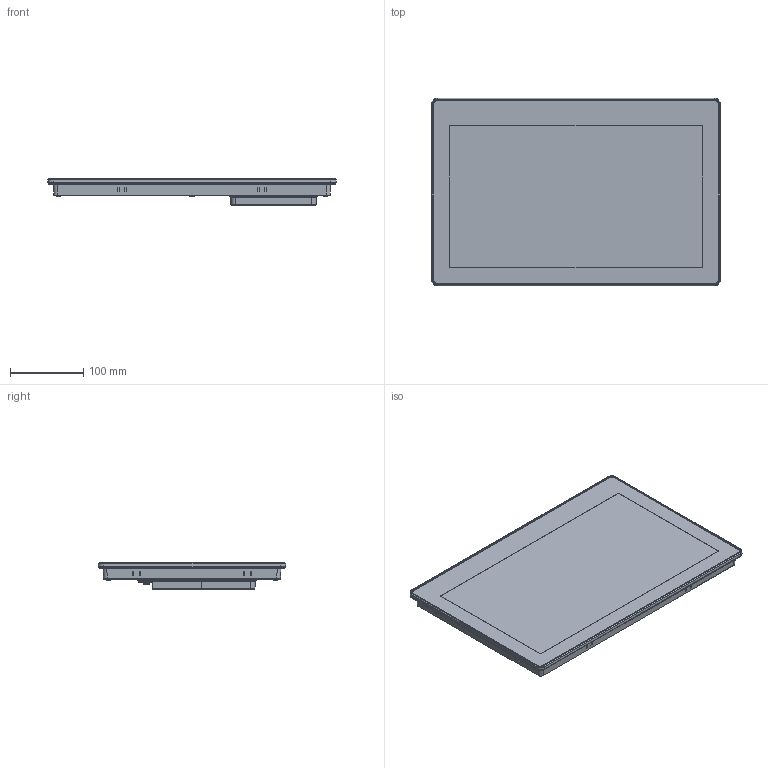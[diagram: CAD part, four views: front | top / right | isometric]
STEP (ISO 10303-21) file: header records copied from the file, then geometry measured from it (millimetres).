
FILE_DESCRIPTION((''),'2;1');
FILE_NAME('RTP156E_ASM','2026-07-07T09:47:10',('weixf_pc'),(''),'CREO PARAMETRIC BY PTC INC, 2016510','CREO PARAMETRIC BY PTC INC, 2016510','');
FILE_SCHEMA(('CONFIG_CONTROL_DESIGN'));
Products named in the file (3): 3; PM3-4_3; RTP156E_ASM
Assembly tree (11 placements, depth 2):
  RTP156E_ASM
    3
    PM3-4_3  x10
Bounding box: 394 x 256 x 35.6 mm (x, y, z)
Volume: 2190334.1 mm3; surface area: 298342.2 mm2
Topology: 11 solids, 16 shells, 2690 faces, 7063 edges, 4418 vertices
Faces by surface type: plane 1068, bspline 712, cylinder 506, torus 208, cone 100, sphere 90, extrusion 6
Entity records: 60453 total; most frequent: CARTESIAN_POINT 22420, ORIENTED_EDGE 8260, DIRECTION 7295, EDGE_CURVE 4130, VECTOR 2735, LINE 2729, VERTEX_POINT 2672, AXIS2_PLACEMENT_3D 2280
